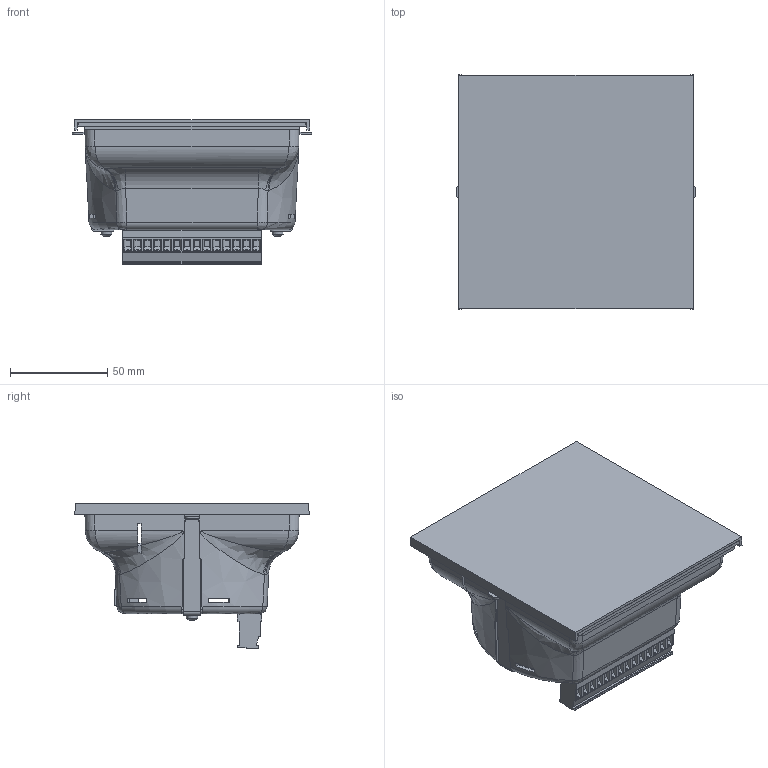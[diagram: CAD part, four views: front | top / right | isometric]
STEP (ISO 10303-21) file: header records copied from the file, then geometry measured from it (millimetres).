
FILE_DESCRIPTION(/* description */ (''),/* implementation_level */ '2;1');
FILE_NAME(/* name */ 'D:\WorkIMT\Project IMT\ИРИС 120\v4\3D на сайт новая\IRIS-SOPT 3D.stp',/* time_stamp */ '2025-09-05T18:03:55+03:00',/* author */ ('Admin'),/* organization */ (''),/* preprocessor_version */ 'ST-DEVELOPER v17.2',/* originating_system */ 'Autodesk Inventor 2019',/* authorisation */ '');
FILE_SCHEMA (('AUTOMOTIVE_DESIGN { 1 0 10303 214 3 1 1 }'));
Products named in the file (1): MT.IRIS-SOPT.01
Bounding box: 122.77 x 120.19 x 74.32 mm (x, y, z)
Volume: 161541.3 mm3; surface area: 133390.5 mm2
Topology: 21 solids, 48 shells, 3147 faces, 8630 edges, 5583 vertices
Faces by surface type: plane 2232, cylinder 541, cone 160, bspline 152, torus 34, sphere 28
Full cylindrical faces by diameter (mm): 0.457 x1, 1.6 x2, 2.3 x2, 2.75 x2, 2.8 x14, 3 x4, 3.5 x2, 3.783 x14, 4 x14
Entity records: 112903 total; most frequent: CARTESIAN_POINT 29648, ORIENTED_EDGE 17208, DIRECTION 16009, EDGE_CURVE 8604, LINE 5967, VECTOR 5967, VERTEX_POINT 5583, AXIS2_PLACEMENT_3D 5021
